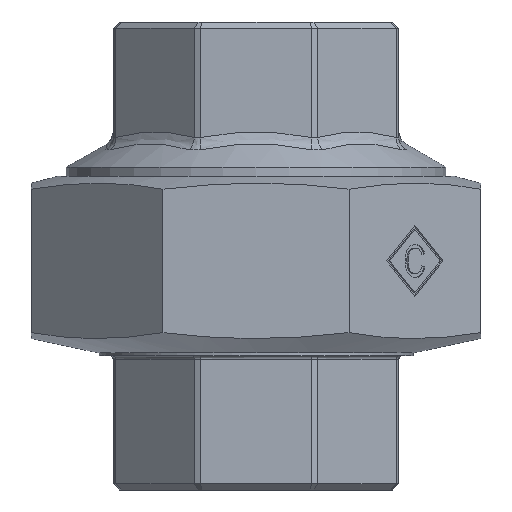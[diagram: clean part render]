
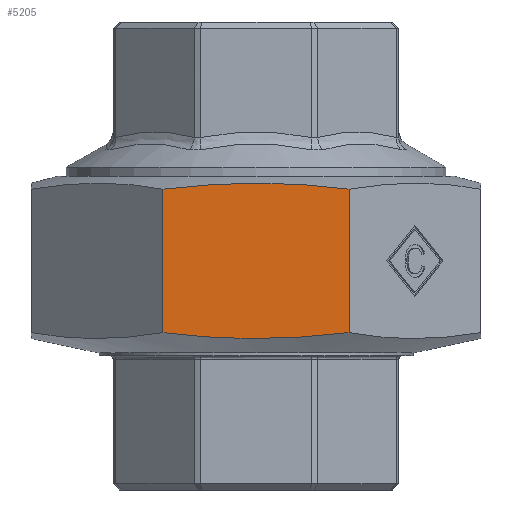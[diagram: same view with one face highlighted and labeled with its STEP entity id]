
A CAD part, front view. The second image highlights one B-rep face of the part: STEP entity #5205.
In plain terms, the highlighted planar face has unit normal (0, -1, 0).
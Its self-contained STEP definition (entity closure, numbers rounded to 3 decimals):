
#799=CARTESIAN_POINT('',(10.258,-24.765,17.36));
#800=VERTEX_POINT('',#799);
#827=CARTESIAN_POINT('',(10.258,-24.765,33.182));
#828=VERTEX_POINT('',#827);
#842=CARTESIAN_POINT('',(10.258,-24.765,17.36));
#843=DIRECTION('',(0.0,0.0,1.0));
#844=VECTOR('',#843,15.822);
#845=LINE('',#842,#844);
#846=EDGE_CURVE('',#800,#828,#845,.T.);
#5158=CARTESIAN_POINT('',(10.258,-24.765,14.73));
#5159=DIRECTION('',(0.0,-1.0,0.0));
#5160=DIRECTION('',(0.0,0.0,1.0));
#5161=AXIS2_PLACEMENT_3D('',#5158,#5159,#5160);
#5162=PLANE('',#5161);
#5163=CARTESIAN_POINT('',(-10.258,-24.765,17.36));
#5164=VERTEX_POINT('',#5163);
#5165=CARTESIAN_POINT('',(-10.258,-24.765,17.36));
#5166=CARTESIAN_POINT('',(-8.507,-24.765,17.128));
#5167=CARTESIAN_POINT('',(-6.751,-24.765,16.963));
#5168=CARTESIAN_POINT('',(-5.028,-24.765,16.857));
#5169=CARTESIAN_POINT('',(-3.662,-24.765,16.773));
#5170=CARTESIAN_POINT('',(-2.318,-24.765,16.726));
#5171=CARTESIAN_POINT('',(-1.015,-24.765,16.711));
#5172=CARTESIAN_POINT('',(-0.36,-24.765,16.703));
#5173=CARTESIAN_POINT('',(0.278,-24.765,16.702));
#5174=CARTESIAN_POINT('',(0.932,-24.765,16.71));
#5175=CARTESIAN_POINT('',(3.903,-24.765,16.743));
#5176=CARTESIAN_POINT('',(7.09,-24.765,16.94));
#5177=CARTESIAN_POINT('',(10.258,-24.765,17.36));
#5178=B_SPLINE_CURVE_WITH_KNOTS('',3,(#5165,#5166,#5167,#5168,#5169,#5170,#5171,#5172,#5173,#5174,#5175,#5176,#5177),.UNSPECIFIED.,.F.,.U.,(4,3,3,3,4),(13.861,14.346,14.73,14.923,15.8),.UNSPECIFIED.);
#5179=EDGE_CURVE('',#5164,#800,#5178,.T.);
#5180=ORIENTED_EDGE('',*,*,#5179,.T.);
#5181=ORIENTED_EDGE('',*,*,#846,.T.);
#5182=CARTESIAN_POINT('',(-10.258,-24.765,33.182));
#5183=VERTEX_POINT('',#5182);
#5184=CARTESIAN_POINT('',(10.258,-24.765,33.182));
#5185=CARTESIAN_POINT('',(6.756,-24.765,33.646));
#5186=CARTESIAN_POINT('',(3.231,-24.765,33.838));
#5187=CARTESIAN_POINT('',(0.,-24.765,33.838));
#5188=CARTESIAN_POINT('',(-0.43,-24.765,33.838));
#5189=CARTESIAN_POINT('',(-0.866,-24.765,33.834));
#5190=CARTESIAN_POINT('',(-1.305,-24.765,33.827));
#5191=CARTESIAN_POINT('',(-4.17,-24.765,33.783));
#5192=CARTESIAN_POINT('',(-7.223,-24.765,33.584));
#5193=CARTESIAN_POINT('',(-10.258,-24.765,33.182));
#5194=B_SPLINE_CURVE_WITH_KNOTS('',3,(#5184,#5185,#5186,#5187,#5188,#5189,#5190,#5191,#5192,#5193),.UNSPECIFIED.,.F.,.U.,(4,3,3,4),(-0.969,0.,0.129,0.969),.UNSPECIFIED.);
#5195=EDGE_CURVE('',#828,#5183,#5194,.T.);
#5196=ORIENTED_EDGE('',*,*,#5195,.T.);
#5197=CARTESIAN_POINT('',(-10.258,-24.765,17.36));
#5198=DIRECTION('',(0.0,0.0,1.0));
#5199=VECTOR('',#5198,15.822);
#5200=LINE('',#5197,#5199);
#5201=EDGE_CURVE('',#5164,#5183,#5200,.T.);
#5202=ORIENTED_EDGE('',*,*,#5201,.F.);
#5203=EDGE_LOOP('',(#5180,#5181,#5196,#5202));
#5204=FACE_OUTER_BOUND('',#5203,.T.);
#5205=ADVANCED_FACE('',(#5204),#5162,.T.);
